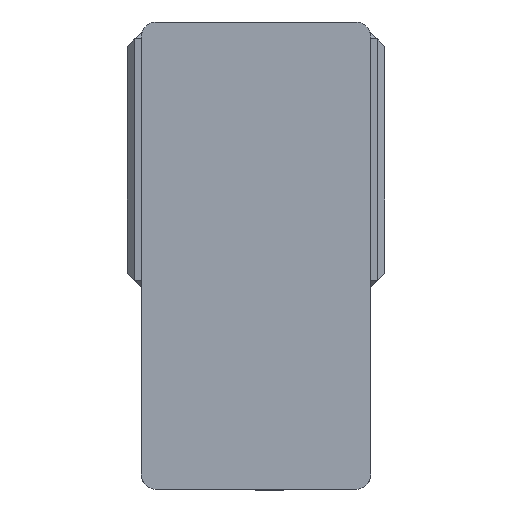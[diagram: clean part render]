
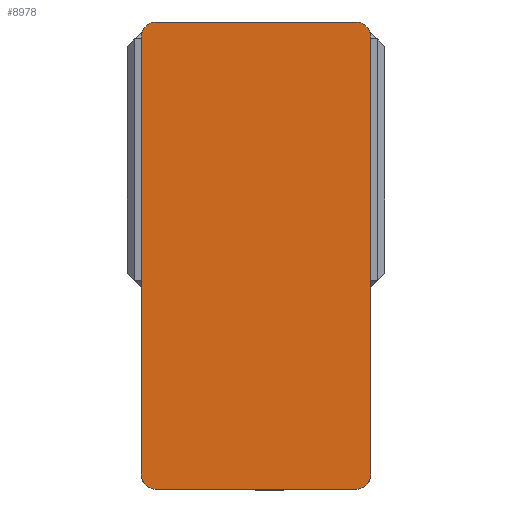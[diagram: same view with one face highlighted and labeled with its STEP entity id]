
A CAD part, left-side view. The second image highlights one B-rep face of the part: STEP entity #8978.
In plain terms, the highlighted planar face has unit normal (-1, 0, 0) as drawn and (0, 0, 1) by its records, which use the part's own axes.
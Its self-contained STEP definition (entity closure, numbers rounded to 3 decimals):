
#167 = DIRECTION ( 'NONE',  ( 0., 0., 1. ) ) ;
#189 = LINE ( 'NONE', #4112, #4605 ) ;
#235 = DIRECTION ( 'NONE',  ( 1., 0., 0. ) ) ;
#324 = LINE ( 'NONE', #729, #8920 ) ;
#357 = EDGE_CURVE ( 'NONE', #6908, #5772, #6333, .T. ) ;
#474 = LINE ( 'NONE', #1734, #8799 ) ;
#729 = CARTESIAN_POINT ( 'NONE',  ( 75., 152.5, 105. ) ) ;
#1502 = VERTEX_POINT ( 'NONE', #8164 ) ;
#1635 = ORIENTED_EDGE ( 'NONE', *, *, #8967, .T. ) ;
#1734 = CARTESIAN_POINT ( 'NONE',  ( -75., 152.5, 105. ) ) ;
#2168 = CARTESIAN_POINT ( 'NONE',  ( 0., 0., 105. ) ) ;
#2192 = ORIENTED_EDGE ( 'NONE', *, *, #4828, .T. ) ;
#2252 = CARTESIAN_POINT ( 'NONE',  ( 75., 142.5, 105. ) ) ;
#2311 = CIRCLE ( 'NONE', #7214, 10. ) ;
#2319 = ORIENTED_EDGE ( 'NONE', *, *, #8784, .T. ) ;
#2377 = DIRECTION ( 'NONE',  ( 0., 0., 1. ) ) ;
#3007 = DIRECTION ( 'NONE',  ( 0., 0., 1. ) ) ;
#3047 = CIRCLE ( 'NONE', #3305, 10. ) ;
#3090 = DIRECTION ( 'NONE',  ( 0., 0., 1. ) ) ;
#3158 = ORIENTED_EDGE ( 'NONE', *, *, #3356, .T. ) ;
#3176 = CARTESIAN_POINT ( 'NONE',  ( -75., 152.5, 105. ) ) ;
#3275 = VERTEX_POINT ( 'NONE', #7948 ) ;
#3305 = AXIS2_PLACEMENT_3D ( 'NONE', #5132, #167, #5981 ) ;
#3356 = EDGE_CURVE ( 'NONE', #10689, #3690, #6329, .T. ) ;
#3371 = VERTEX_POINT ( 'NONE', #2252 ) ;
#3395 = CARTESIAN_POINT ( 'NONE',  ( -75., 142.5, 105. ) ) ;
#3406 = CARTESIAN_POINT ( 'NONE',  ( 65., -152.5, 105. ) ) ;
#3690 = VERTEX_POINT ( 'NONE', #4388 ) ;
#4112 = CARTESIAN_POINT ( 'NONE',  ( -75., -152.5, 105. ) ) ;
#4227 = AXIS2_PLACEMENT_3D ( 'NONE', #10200, #5199, #235 ) ;
#4273 = PLANE ( 'NONE',  #5319 ) ;
#4388 = CARTESIAN_POINT ( 'NONE',  ( 75., -142.5, 105. ) ) ;
#4462 = ORIENTED_EDGE ( 'NONE', *, *, #6249, .T. ) ;
#4507 = EDGE_LOOP ( 'NONE', ( #2192, #3158, #9211, #4462, #1635, #2319, #8512, #9200 ) ) ;
#4605 = VECTOR ( 'NONE', #9936, 1000. ) ;
#4828 = EDGE_CURVE ( 'NONE', #5772, #10689, #189, .T. ) ;
#4905 = DIRECTION ( 'NONE',  ( 0., 1., 0. ) ) ;
#4941 = CARTESIAN_POINT ( 'NONE',  ( -75., -142.5, 105. ) ) ;
#5132 = CARTESIAN_POINT ( 'NONE',  ( 65., 142.5, 105. ) ) ;
#5199 = DIRECTION ( 'NONE',  ( 0., 0., 1. ) ) ;
#5319 = AXIS2_PLACEMENT_3D ( 'NONE', #2168, #3007, #8821 ) ;
#5352 = AXIS2_PLACEMENT_3D ( 'NONE', #8061, #3090, #8901 ) ;
#5772 = VERTEX_POINT ( 'NONE', #8257 ) ;
#5843 = VERTEX_POINT ( 'NONE', #3395 ) ;
#5981 = DIRECTION ( 'NONE',  ( 1., 0., 0. ) ) ;
#6249 = EDGE_CURVE ( 'NONE', #3371, #3275, #3047, .T. ) ;
#6329 = CIRCLE ( 'NONE', #5352, 10. ) ;
#6333 = CIRCLE ( 'NONE', #4227, 10. ) ;
#6586 = FACE_OUTER_BOUND ( 'NONE', #4507, .T. ) ;
#6908 = VERTEX_POINT ( 'NONE', #4941 ) ;
#7214 = AXIS2_PLACEMENT_3D ( 'NONE', #7352, #2377, #8209 ) ;
#7352 = CARTESIAN_POINT ( 'NONE',  ( -65., 142.5, 105. ) ) ;
#7486 = LINE ( 'NONE', #3176, #9437 ) ;
#7574 = DIRECTION ( 'NONE',  ( -1., 0., 0. ) ) ;
#7948 = CARTESIAN_POINT ( 'NONE',  ( 65., 152.5, 105. ) ) ;
#8061 = CARTESIAN_POINT ( 'NONE',  ( 65., -142.5, 105. ) ) ;
#8164 = CARTESIAN_POINT ( 'NONE',  ( -65., 152.5, 105. ) ) ;
#8209 = DIRECTION ( 'NONE',  ( 1., 0., 0. ) ) ;
#8257 = CARTESIAN_POINT ( 'NONE',  ( -65., -152.5, 105. ) ) ;
#8512 = ORIENTED_EDGE ( 'NONE', *, *, #9660, .T. ) ;
#8784 = EDGE_CURVE ( 'NONE', #1502, #5843, #2311, .T. ) ;
#8799 = VECTOR ( 'NONE', #7574, 1000. ) ;
#8821 = DIRECTION ( 'NONE',  ( 1., 0., 0. ) ) ;
#8901 = DIRECTION ( 'NONE',  ( 1., 0., 0. ) ) ;
#8920 = VECTOR ( 'NONE', #4905, 1000. ) ;
#8967 = EDGE_CURVE ( 'NONE', #3275, #1502, #474, .T. ) ;
#8978 = ADVANCED_FACE ( 'NONE', ( #6586 ), #4273, .T. ) ;
#9200 = ORIENTED_EDGE ( 'NONE', *, *, #357, .T. ) ;
#9211 = ORIENTED_EDGE ( 'NONE', *, *, #9722, .T. ) ;
#9437 = VECTOR ( 'NONE', #9828, 1000. ) ;
#9660 = EDGE_CURVE ( 'NONE', #5843, #6908, #7486, .T. ) ;
#9722 = EDGE_CURVE ( 'NONE', #3690, #3371, #324, .T. ) ;
#9828 = DIRECTION ( 'NONE',  ( 0., -1., 0. ) ) ;
#9936 = DIRECTION ( 'NONE',  ( 1., 0., 0. ) ) ;
#10200 = CARTESIAN_POINT ( 'NONE',  ( -65., -142.5, 105. ) ) ;
#10689 = VERTEX_POINT ( 'NONE', #3406 ) ;
